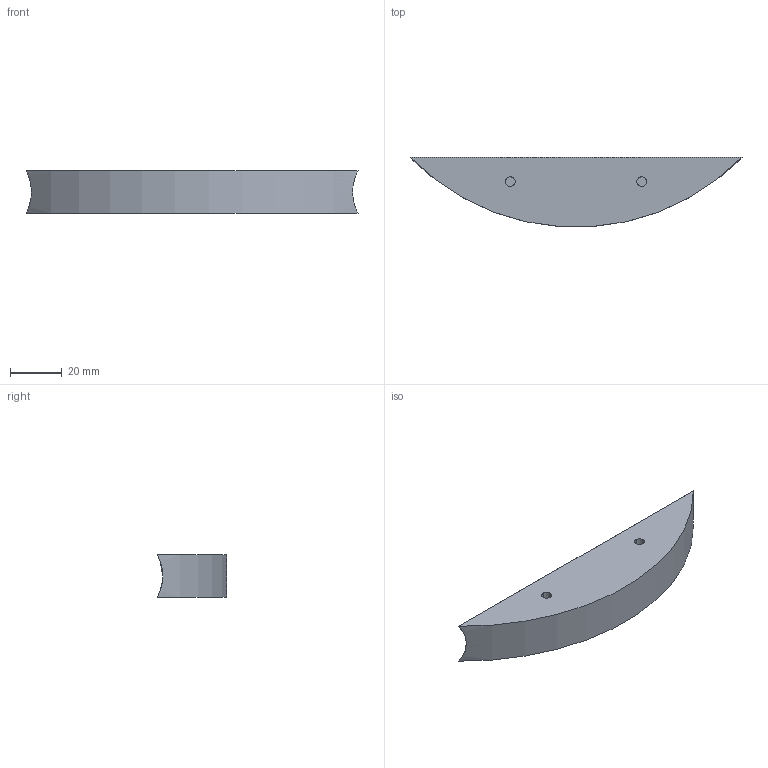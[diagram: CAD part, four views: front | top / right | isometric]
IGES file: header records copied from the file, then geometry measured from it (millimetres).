
Start section: 3D InterOp IGES (Version 21 0 3), Spatial Corp. Copyright (c) 1999-2007.
Global section: file name: CSR ANKLE CYLINDER HOLDER - 20140610.igs; native system: Spatial Corp.; preprocessor: 3D InterOp GENERIC/IGES 3.0; author: Noname; organization: Noname; date: 20140621.122043; units: inch
Bounding box: 128.27 x 26.75 x 16.51 mm (x, y, z)
Surface area: 9528.2 mm2 (no closed solid volume)
Topology: 0 solids, 0 shells, 13 faces, 54 edges, 54 vertices
Faces by surface type: revolution 7, extrusion 6
